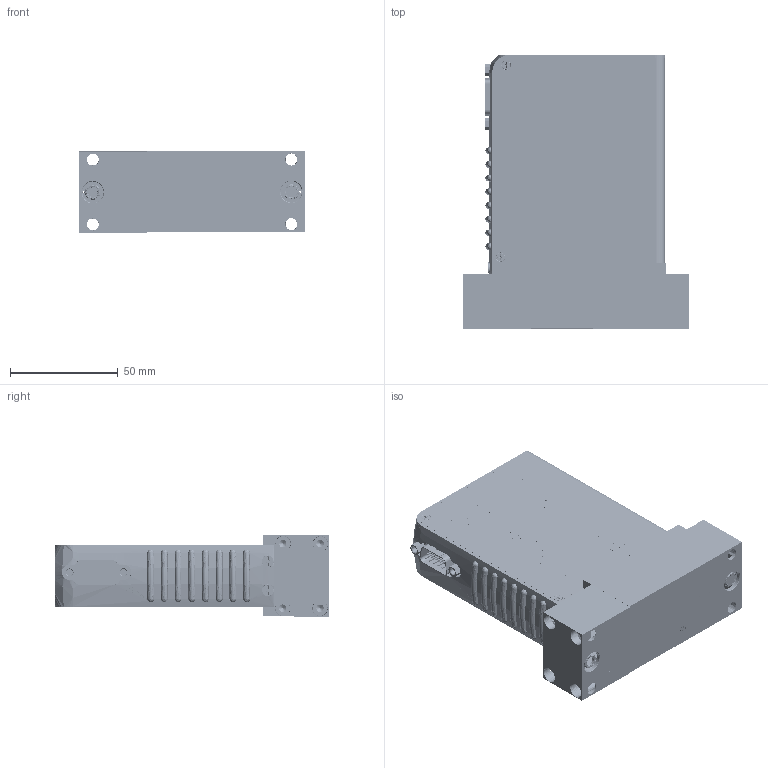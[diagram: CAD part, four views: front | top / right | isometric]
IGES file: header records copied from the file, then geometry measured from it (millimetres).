
Start section: SolidWorks IGES file using analytic representation for surfaces
Global section: file name: G:\Engineering\CAD MODELS FOR SALES\CAD MODEL STORAGE\GF\GF125\CUSTOMER FILES\IGES\GF100-GF120-GF125-BX-SX.IGS; native system: SolidWorks 2020; preprocessor: SolidWorks 2020; author: CFehr; date: 230721.142444; units: inch
Bounding box: 104.95 x 127.22 x 37.76 mm (x, y, z)
Surface area: 89415.1 mm2 (no closed solid volume)
Topology: 0 solids, 0 shells, 3966 faces, 44908 edges, 44884 vertices
Faces by surface type: bspline 2875, revolution 1091
